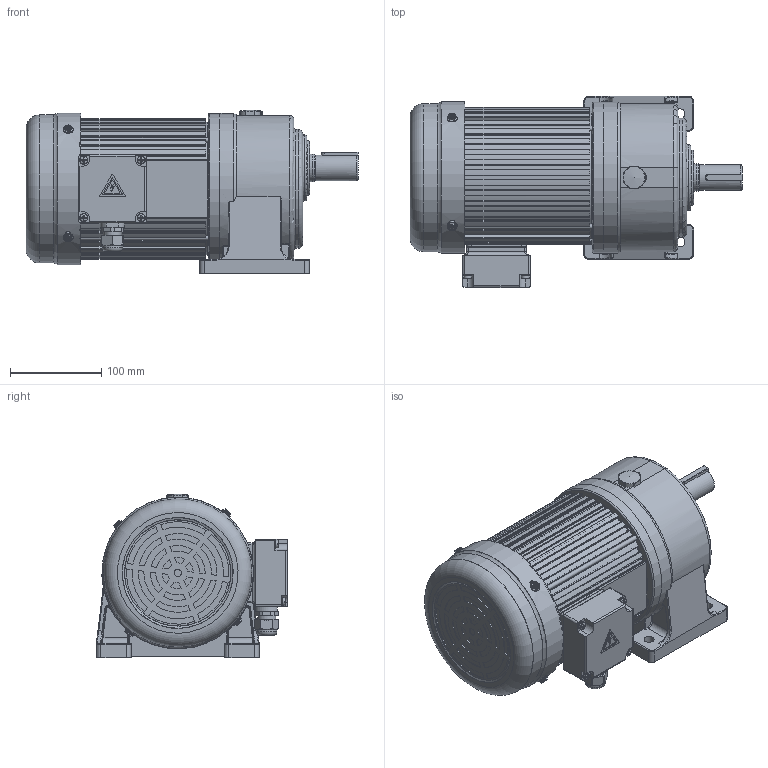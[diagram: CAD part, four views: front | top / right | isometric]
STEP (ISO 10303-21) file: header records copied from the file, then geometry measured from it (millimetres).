
FILE_DESCRIPTION(/* description */ (''),/* implementation_level */ '2;1');
FILE_NAME(/* name */ 'PST00001155_A0-小型交流减速电机-363_178_179.3-Φ28_68_K7-CH28-750-50S2-G1-LD_T1.stp',/* time_stamp */ '2025-04-23T08:29:38+08:00',/* author */ (''),/* organization */ (''),/* preprocessor_version */ 'ST-DEVELOPER v18.102',/* originating_system */ 'SIEMENS PLM Software NX 2027',/* authorisation */ '');
FILE_SCHEMA (('AP203_CONFIGURATION_CONTROLLED_3D_DESIGN_OF_MECHANICAL_PARTS_AND_ASSEMBLIES_MIM_LF { 1 0 10303 403 2 1 2}'));
Length unit declared in the file: millimetre
Products named in the file (1): A0_objects
Bounding box: 363 x 209.25 x 179.3 mm (x, y, z)
Volume: 3092575.5 mm3; surface area: 662079.3 mm2
Topology: 5 solids, 5 shells, 4102 faces, 10458 edges, 6483 vertices
Faces by surface type: plane 2179, cylinder 1124, cone 411, bspline 165, torus 160, sphere 33, revolution 30
Full cylindrical faces by diameter (mm): 1 x1, 1.8 x1, 3 x2, 4 x1, 4.2 x17, 4.336 x4, 4.51 x4, 4.6 x4, 4.826 x6, 5 x10, 5.795 x5, 6.2 x5, 6.4 x8, 7 x8, 8 x1, 8.5 x4, 9 x4, 10 x9, 11 x13, 15.76 x1, 16.6 x1, 16.678 x1, 17 x2, 18.5 x2, 18.6 x1, 19 x3, 19.6 x1, 20 x4, 21 x1, 22.5 x1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
Entity records: 129353 total; most frequent: CARTESIAN_POINT 32478, ORIENTED_EDGE 20178, DIRECTION 20124, EDGE_CURVE 10089, AXIS2_PLACEMENT_3D 7556, VERTEX_POINT 6384, LINE 4982, VECTOR 4982
